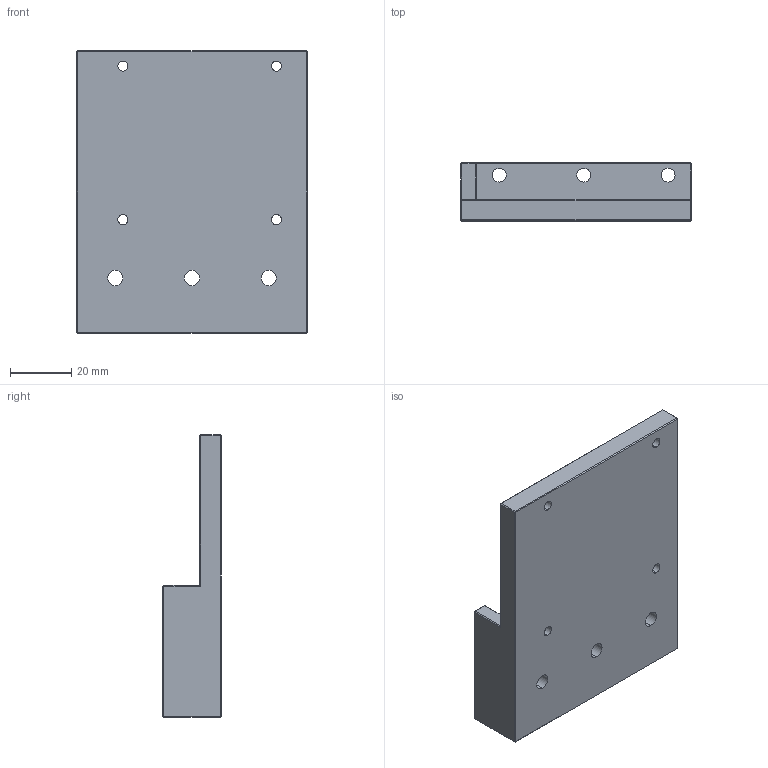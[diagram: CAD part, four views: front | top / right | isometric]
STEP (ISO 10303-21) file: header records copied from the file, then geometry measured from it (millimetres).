
FILE_DESCRIPTION (( 'STEP AP214' ), '1' );
FILE_NAME ('錨璃9.STEP', '2026-10-12T07:38:16', ( '' ), ( '' ), 'SwSTEP 2.0', 'SolidWorks 2024', '' );
FILE_SCHEMA (( 'AUTOMOTIVE_DESIGN' ));
Length unit declared in the file: millimetre
Products named in the file (1): 零件9
Bounding box: 75 x 19 x 92 mm (x, y, z)
Volume: 56527.7 mm3; surface area: 19495.4 mm2
Topology: 1 solids, 1 shells, 61 faces, 141 edges, 82 vertices
Faces by surface type: plane 41, cylinder 20
Entity records: 1750 total; most frequent: DIRECTION 305, CARTESIAN_POINT 285, ORIENTED_EDGE 282, EDGE_CURVE 141, AXIS2_PLACEMENT_3D 102, LINE 101, VECTOR 101, VERTEX_POINT 82
